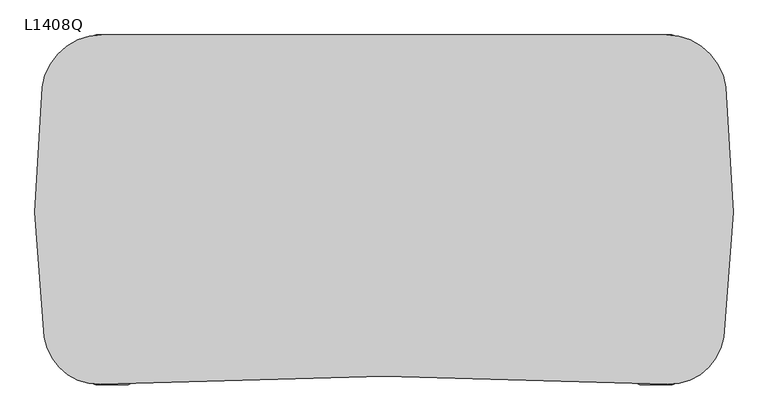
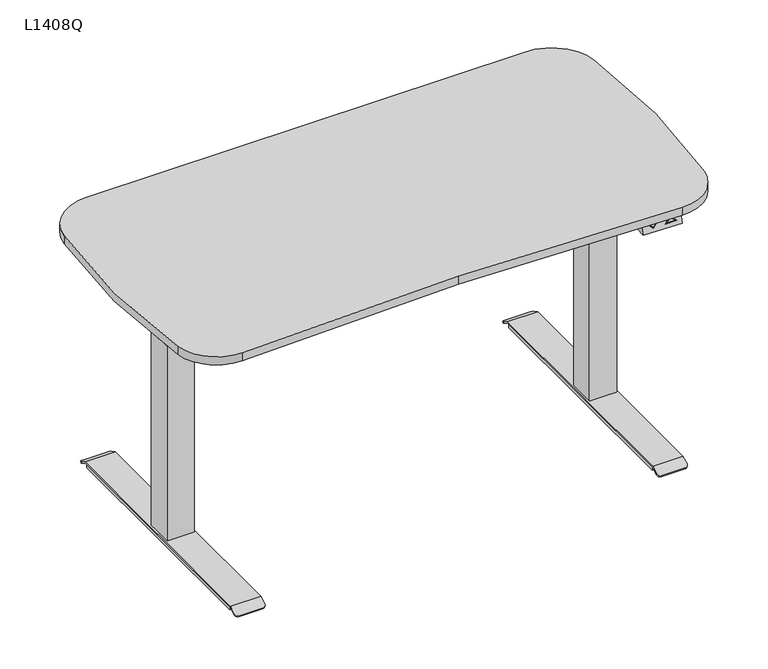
"""IFC4 building model written with IfcOpenShell, lengths in millimetres: furniture geometry, PINTA EQC : L1408Q."""

from ifc_helpers import new_model, si_unit, point, frame, frame_2d, origin, origin_with_axes, place, context, project, spatial, polyline, circle_curve, trimmed, segment, composite_curve, outline, extrude, faceted_brep, source, transform, mapped, element, save
from ifc_brep_helpers import plane_surface, cylinder_surface, advanced_brep


def l1408q_6657de7c(model_context):
    return source(origin(), model_context, "Body", "SolidModel", [
        faceted_brep([(474.6356936, -686.0792279, 668.0), (475.4886346, -656.0913555, 668.0), (575.4482093, -658.9344925, 668.0), (574.5952682, -688.9223649, 668.0), (474.9200072, -676.0832705, 698.0), (574.8795819, -678.9264074, 698.0), (575.732523, -648.938535, 698.0), (475.7729483, -646.0953981, 698.0), (487.3396362, -679.0867023, 690.0526681), (517.3275087, -679.9396434, 690.0526681), (502.1987106, -684.2546718, 675.8224186), (562.1879616, -685.4857012, 677.2475529), (532.2000892, -684.6327602, 677.2475529), (547.3288872, -680.3177318, 691.4778023), (502.2241404, -683.3606062, 678.5057002), (512.4830519, -680.4345645, 688.1553015), (492.1481299, -679.856181, 688.1553015), (557.379468, -684.7162226, 679.1449195), (547.3034574, -681.2117974, 688.7945208), (537.044546, -684.1378391, 679.1449195), (517.354481, -678.9913436, 689.7364403), (487.3666086, -678.1384025, 689.7364403), (502.225683, -683.306372, 675.5061908), (512.5100242, -679.4862647, 687.8390737), (502.2511128, -682.4123064, 678.1894724), (492.1751022, -678.9078812, 687.8390737), (532.2270616, -683.6844604, 676.9313251), (562.214934, -684.5374015, 676.9313251), (547.3558596, -679.369432, 691.1615746), (547.3304298, -680.2634976, 688.478293), (557.4064403, -683.7679228, 678.8286917), (537.0715184, -683.1895393, 678.8286917)], [[[0, 1, 2, 3]], [[4, 5, 6, 7]], [[1, 0, 4, 7]], [[3, 2, 6, 5]], [[0, 3, 5, 4], [8, 9, 10], [11, 12, 13]], [[14, 15, 16]], [[17, 18, 19]], [[2, 1, 7, 6]], [[20, 21, 22], [23, 24, 25]], [[26, 27, 28], [29, 30, 31]], [[21, 20, 9, 8]], [[22, 21, 8, 10]], [[20, 22, 10, 9]], [[27, 26, 12, 11]], [[28, 27, 11, 13]], [[26, 28, 13, 12]], [[24, 23, 15, 14]], [[25, 24, 14, 16]], [[23, 25, 16, 15]], [[30, 29, 18, 17]], [[31, 30, 17, 19]], [[29, 31, 19, 18]]]),
        extrude(outline(polyline([(-579.2088623, -269.773219), (580.0, -269.7733081), (580.0, -289.7733081), (-579.2088623, -289.773219), (-579.2088623, -269.773219)])), frame((0.0, 0.0, 658.0), z_axis=(0.0, 0.0, 1.0), x_axis=(1.0, 0.0, 0.0)), (0.0, 0.0, 1.0), 40.0),
        extrude(outline(polyline([(-579.2088623, -409.773219), (580.0, -409.7733081), (580.0, -429.7733081), (-579.2088623, -429.773219), (-579.2088623, -409.773219)])), frame((0.0, 0.0, 658.0), z_axis=(0.0, 0.0, 1.0), x_axis=(1.0, 0.0, 0.0)), (0.0, 0.0, 1.0), 40.0),
        extrude(outline(composite_curve([segment(polyline([(-565.2986167, 0.0), (565.2986167, 0.0)]), True, "CONTINUOUS"), segment(trimmed(circle_curve(frame_2d((565.2986167, -120.0)), 120.0), [point((565.2986167, 0.0))], [point((684.3640357, -105.0525582))], False, "CARTESIAN"), True, "CONTINUOUS"), segment(trimmed(circle_curve(frame_2d((-1174.6597953, -338.4339275)), 1873.6158805), [point((684.3640357, -105.0525582))], [point((679.8816852, -605.1029451))], False, "CARTESIAN"), True, "CONTINUOUS"), segment(trimmed(circle_curve(frame_2d((571.0374225, -589.1992825)), 110.0), [point((679.8816852, -605.1029451))], [point((567.9099719, -699.1548147))], False, "CARTESIAN"), True, "CONTINUOUS"), segment(polyline([(567.9099719, -699.1548147), (0.0001526, -683.0018311), (-567.9096667, -699.1548147)]), True, "CONTINUOUS"), segment(trimmed(circle_curve(frame_2d((-571.0371173, -589.1992825)), 110.0), [point((-567.9096667, -699.1548147))], [point((-679.919478, -604.8399838))], False, "CARTESIAN"), True, "CONTINUOUS"), segment(trimmed(circle_curve(frame_2d((1174.6597953, -338.4339275)), 1873.6158805), [point((-679.919478, -604.8399838))], [point((-684.3640357, -105.0525582))], False, "CARTESIAN"), True, "CONTINUOUS"), segment(trimmed(circle_curve(frame_2d((-565.2986167, -120.0)), 120.0), [point((-684.3640357, -105.0525582))], [point((-565.2986167, 0.0))], False, "CARTESIAN"), True, "CONTINUOUS")], self_intersect=False)), frame((0.0, 0.0, 698.0), z_axis=(0.0, 0.0, 1.0), x_axis=(1.0, 0.0, 0.0)), (0.0, 0.0, 1.0), 22.0),
        advanced_brep(
        [(506.9772339, -670.0, 6.0), (506.9772339, -670.0, 16.0), (506.9772339, -30.0, 16.0), (506.9772339, -30.0, 6.0), (583.0227661, -30.0, 16.0), (583.0227661, -30.0, 6.0), (583.0227661, -670.0, 16.0), (583.0227661, -670.0, 6.0), (506.0, -25.0, 20.0), (506.0, -6.9800481, 9.908827), (506.0, -8.9344616, 6.4188029), (506.0, -26.0437422, 16.0), (506.0, -673.9562578, 16.0), (506.0, -691.0655384, 6.4188029), (506.0, -693.0199519, 9.908827), (506.0, -675.0, 20.0), (584.0, -26.0437422, 16.0), (584.0, -8.9344616, 6.4188029), (584.0, -6.9800481, 9.908827), (584.0, -25.0, 20.0), (584.0, -675.0, 20.0), (584.0, -693.0199519, 9.908827), (584.0, -691.0655384, 6.4188029), (584.0, -673.9562578, 16.0), (514.0, -700.0, 6.0), (576.0, -700.0, 6.0), (514.0, -698.0455865, 2.5099759), (576.0, -698.0455865, 2.5099759), (514.0, -1.9544135, 2.5099759), (576.0, -1.9544135, 2.5099759), (514.0, 0.0, 6.0), (576.0, 0.0, 6.0)],
        [
            (0, 1),
            (1, 2),
            (2, 3),
            (3, 0),
            (2, 4),
            (4, 5),
            (5, 3),
            (4, 6),
            (6, 7),
            (7, 5),
            (6, 1),
            (0, 7),
            (8, 9),
            (9, 10),
            (10, 11),
            (11, 12),
            (12, 13),
            (13, 14),
            (14, 15),
            (15, 8),
            (16, 17),
            (17, 18),
            (18, 19),
            (19, 20),
            (20, 21),
            (21, 22),
            (22, 23),
            (23, 16),
            (15, 20),
            (19, 8),
            (11, 16),
            (23, 12),
            (14, 24, circle_curve(frame((514.0, -693.0199519, 9.908827), z_axis=(0.0, -0.4886033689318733, 0.8725060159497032), x_axis=(0.0, 0.8725060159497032, 0.4886033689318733)), 8.0)),
            (24, 25),
            (25, 21, circle_curve(frame((576.0, -693.0199519, 9.908827), z_axis=(0.0, -0.4886033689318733, 0.8725060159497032), x_axis=(0.0, 0.8725060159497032, 0.4886033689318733)), 8.0)),
            (24, 26),
            (26, 27),
            (27, 25),
            (22, 27, circle_curve(frame((576.0, -691.0655384, 6.4188029), z_axis=(0.0, 0.4886033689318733, -0.8725060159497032), x_axis=(0.0, 0.8725060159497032, 0.4886033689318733)), 8.0)),
            (26, 13, circle_curve(frame((514.0, -691.0655384, 6.4188029), z_axis=(0.0, 0.4886033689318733, -0.8725060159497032), x_axis=(0.0, 0.8725060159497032, 0.4886033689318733)), 8.0)),
            (10, 28, circle_curve(frame((514.0, -8.9344616, 6.4188029), z_axis=(0.0, -0.4886033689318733, -0.8725060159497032), x_axis=(0.0, -0.8725060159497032, 0.4886033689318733)), 8.0)),
            (28, 29),
            (29, 17, circle_curve(frame((576.0, -8.9344616, 6.4188029), z_axis=(0.0, -0.4886033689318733, -0.8725060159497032), x_axis=(0.0, -0.8725060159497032, 0.4886033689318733)), 8.0)),
            (28, 30),
            (30, 31),
            (31, 29),
            (18, 31, circle_curve(frame((576.0, -6.9800481, 9.908827), z_axis=(0.0, 0.4886033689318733, 0.8725060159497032), x_axis=(0.0, -0.8725060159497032, 0.4886033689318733)), 8.0)),
            (30, 9, circle_curve(frame((514.0, -6.9800481, 9.908827), z_axis=(0.0, 0.4886033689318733, 0.8725060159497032), x_axis=(0.0, -0.8725060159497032, 0.4886033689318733)), 8.0)),
        ],
        [
            plane_surface(frame((506.9772339, -670.0, 16.0), z_axis=(-1.0, 0.0, 0.0), x_axis=(0.0, 0.0, -1.0))),
            plane_surface(frame((506.9772339, -30.0, 16.0), z_axis=(0.0, 1.0, 0.0), x_axis=(0.0, 0.0, -1.0))),
            plane_surface(frame((583.0227661, -30.0, 16.0), z_axis=(1.0, 0.0, 0.0), x_axis=(0.0, 0.0, -1.0))),
            plane_surface(frame((583.0227661, -670.0, 16.0), z_axis=(0.0, -1.0, 0.0), x_axis=(0.0, 0.0, -1.0))),
            plane_surface(frame((506.9772339, -673.4188232, 6.0), z_axis=(0.0, 0.0, -1.0), x_axis=(0.0, -1.0, 0.0))),
            plane_surface(frame((506.0, -350.0, 20.0), z_axis=(-1.0, 0.0, 0.0), x_axis=(0.0, -1.0, 0.0))),
            plane_surface(frame((584.0, -350.0, 20.0), z_axis=(1.0, 0.0, 0.0), x_axis=(0.0, 1.0, 0.0))),
            plane_surface(frame((506.0, -25.0, 20.0), z_axis=(0.0, 0.0, 1.0), x_axis=(1.0, 0.0, 0.0))),
            plane_surface(frame((506.0, -673.9562578, 16.0), z_axis=(0.0, 0.0, -1.0), x_axis=(1.0, 0.0, 0.0))),
            plane_surface(frame((506.0, -675.0, 20.0), z_axis=(0.0, -0.4886033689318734, 0.8725060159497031), x_axis=(1.0, 0.0, 0.0))),
            plane_surface(frame((506.0, -700.0, 6.0), z_axis=(0.0, -0.872506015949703, -0.4886033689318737), x_axis=(1.0, 0.0, 0.0))),
            plane_surface(frame((506.0, -698.0455865, 2.5099759), z_axis=(0.0, 0.4886033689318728, -0.8725060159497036), x_axis=(1.0, 0.0, 0.0))),
            plane_surface(frame((506.0, -26.0437422, 16.0), z_axis=(0.0, -0.4886033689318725, -0.8725060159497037), x_axis=(1.0, 0.0, 0.0))),
            plane_surface(frame((506.0, -1.9544135, 2.5099759), z_axis=(0.0, 0.8725060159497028, -0.48860336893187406), x_axis=(1.0, 0.0, 0.0))),
            plane_surface(frame((506.0, 0.0, 6.0), z_axis=(0.0, 0.48860336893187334, 0.8725060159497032), x_axis=(1.0, 0.0, 0.0))),
            cylinder_surface(frame((514.0, -693.0199519, 9.908827), z_axis=(0.0, -0.4886033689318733, 0.8725060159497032), x_axis=(0.0, 0.8725060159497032, 0.4886033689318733)), 8.0),
            cylinder_surface(frame((576.0, -693.0199519, 9.908827), z_axis=(0.0, -0.4886033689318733, 0.8725060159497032), x_axis=(0.0, 0.8725060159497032, 0.4886033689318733)), 8.0),
            cylinder_surface(frame((514.0, -6.9800481, 9.908827), z_axis=(0.0, 0.4886033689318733, 0.8725060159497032), x_axis=(0.0, -0.8725060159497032, 0.4886033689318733)), 8.0),
            cylinder_surface(frame((576.0, -6.9800481, 9.908827), z_axis=(0.0, 0.4886033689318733, 0.8725060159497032), x_axis=(0.0, -0.8725060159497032, 0.4886033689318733)), 8.0),
        ],
        [
            (0, [[1, 2, 3, 4]]),
            (1, [[-3, 5, 6, 7]]),
            (2, [[-6, 8, 9, 10]]),
            (3, [[-9, 11, -1, 12]]),
            (4, [[-4, -7, -10, -12]]),
            (5, [[13, 14, 15, 16, 17, 18, 19, 20]]),
            (6, [[21, 22, 23, 24, 25, 26, 27, 28]]),
            (7, [[29, -24, 30, -20]]),
            (8, [[31, -28, 32, -16], [-11, -8, -5, -2]]),
            (9, [[-19, 33, 34, 35, -25, -29]]),
            (10, [[36, 37, 38, -34]]),
            (11, [[-27, 39, -37, 40, -17, -32]]),
            (12, [[-15, 41, 42, 43, -21, -31]]),
            (13, [[44, 45, 46, -42]]),
            (14, [[-23, 47, -45, 48, -13, -30]]),
            (15, [[-40, -36, -33, -18]]),
            (16, [[-35, -38, -39, -26]]),
            (17, [[-48, -44, -41, -14]]),
            (18, [[-43, -46, -47, -22]]),
        ],
    ),
        faceted_brep([(379.4551307, -410.0, 698.0), (562.9996948, -410.0, 698.0), (562.9996948, -650.0, 698.0), (579.4551307, -650.0, 698.0), (583.0, -650.0, 698.0), (583.0, -50.0, 698.0), (579.4551307, -50.0, 698.0), (562.9996948, -50.0, 698.0), (562.9996948, -290.0, 698.0), (379.4551307, -290.0, 698.0), (379.4551307, -410.0, 635.2327881), (379.4551307, -290.0, 635.2327881), (579.4551307, -290.0, 635.2327881), (579.4551307, -253.8252348, 635.2327881), (583.0, -253.8252348, 635.2327881), (583.0, -446.1747652, 635.2327881), (579.4551307, -446.1747652, 635.2327881), (579.4551307, -410.0, 635.2327881), (562.9996948, -290.0, 694.9093018), (579.4551307, -290.0, 694.9093018), (579.4551307, -410.0, 694.9093018), (562.9996948, -410.0, 694.9093018), (579.4551307, -650.0, 694.9093018), (562.9996948, -650.0, 694.9093018), (579.4551307, -50.0, 694.9093018), (562.9996948, -50.0, 694.9093018), (579.4551307, -51.1249222, 694.9093018), (579.4551307, -648.8750778, 694.9093018), (579.4551307, -58.5505036, 674.5076845), (579.4551307, -641.4494964, 674.5076845), (583.0, -58.5505036, 674.5076845), (583.0, -641.4494964, 674.5076845)], [[[0, 1, 2, 3, 4, 5, 6, 7, 8, 9]], [[10, 11, 12, 13, 14, 15, 16, 17]], [[9, 11, 10, 0]], [[11, 9, 8, 18, 19, 12]], [[17, 20, 21, 1, 0, 10]], [[22, 3, 2, 23]], [[24, 25, 7, 6]], [[24, 26, 19, 18, 25]], [[23, 21, 20, 27, 22]], [[2, 1, 21, 23]], [[25, 18, 8, 7]], [[13, 12, 19, 26, 28]], [[29, 27, 20, 17, 16]], [[15, 14, 30, 5, 4, 31]], [[16, 15, 31, 29]], [[22, 27, 3]], [[6, 26, 24]], [[4, 3, 27, 29, 31]], [[28, 30, 14, 13]], [[30, 28, 26, 6, 5]]]),
        extrude(outline(composite_curve([segment(trimmed(circle_curve(frame_2d((545.0, -655.0)), 25.0), [point((570.0, -655.0))], [point((520.0, -655.0))], False, "CARTESIAN"), True, "CONTINUOUS"), segment(trimmed(circle_curve(frame_2d((545.0, -655.0)), 25.0), [point((520.0, -655.0))], [point((570.0, -655.0))], False, "CARTESIAN"), True, "CONTINUOUS")], self_intersect=False)), origin_with_axes(), (0.0, 0.0, 1.0), 6.0),
        extrude(outline(composite_curve([segment(trimmed(circle_curve(frame_2d((545.0, -45.0)), 25.0), [point((570.0, -45.0))], [point((520.0, -45.0))], False, "CARTESIAN"), True, "CONTINUOUS"), segment(trimmed(circle_curve(frame_2d((545.0, -45.0)), 25.0), [point((520.0, -45.0))], [point((570.0, -45.0))], False, "CARTESIAN"), True, "CONTINUOUS")], self_intersect=False)), origin_with_axes(), (0.0, 0.0, 1.0), 6.0),
        faceted_brep([(510.0, -315.0, 550.0), (510.0, -384.9621325, 550.0), (580.0, -384.9621325, 550.0), (580.0, -315.0, 550.0), (575.0, -320.0, 550.0), (575.0, -379.9621325, 550.0), (515.0, -379.9621325, 550.0), (515.0, -320.0, 550.0), (510.0, -315.0, 20.0), (580.0, -315.0, 20.0), (580.0, -384.9621325, 20.0), (510.0, -384.9621325, 20.0), (515.0, -320.0, 592.616394), (515.0, -379.9621325, 592.616394), (575.0, -379.9621325, 592.616394), (575.0, -320.0, 592.616394), (570.0, -325.0, 592.616394), (570.0, -374.9621325, 592.616394), (520.0, -374.9621325, 592.616394), (520.0, -325.0, 592.616394), (520.0, -325.0, 635.2327881), (520.0, -374.9621325, 635.2327881), (570.0, -374.9621325, 635.2327881), (570.0, -325.0, 635.2327881)], [[[0, 1, 2, 3], [4, 5, 6, 7]], [[8, 9, 10, 11]], [[3, 9, 8, 0]], [[2, 10, 9, 3]], [[1, 11, 10, 2]], [[0, 8, 11, 1]], [[12, 13, 14, 15], [16, 17, 18, 19]], [[15, 4, 7, 12]], [[14, 5, 4, 15]], [[13, 6, 5, 14]], [[12, 7, 6, 13]], [[20, 21, 22, 23]], [[23, 16, 19, 20]], [[22, 17, 16, 23]], [[21, 18, 17, 22]], [[20, 19, 18, 21]]]),
        advanced_brep(
        [(-506.9772339, -670.0, 6.0), (-506.9772339, -30.0, 6.0), (-506.9772339, -30.0, 16.0), (-506.9772339, -670.0, 16.0), (-583.0227661, -30.0, 6.0), (-583.0227661, -30.0, 16.0), (-583.0227661, -670.0, 6.0), (-583.0227661, -670.0, 16.0), (-506.0, -25.0, 20.0), (-506.0, -675.0, 20.0), (-506.0, -693.0199519, 9.908827), (-506.0, -691.0655384, 6.4188029), (-506.0, -673.9562578, 16.0), (-506.0, -26.0437422, 16.0), (-506.0, -8.9344616, 6.4188029), (-506.0, -6.9800481, 9.908827), (-584.0, -26.0437422, 16.0), (-584.0, -673.9562578, 16.0), (-584.0, -691.0655384, 6.4188029), (-584.0, -693.0199519, 9.908827), (-584.0, -675.0, 20.0), (-584.0, -25.0, 20.0), (-584.0, -6.9800481, 9.908827), (-584.0, -8.9344616, 6.4188029), (-576.0, -700.0, 6.0), (-514.0, -700.0, 6.0), (-576.0, -698.0455865, 2.5099759), (-514.0, -698.0455865, 2.5099759), (-576.0, -1.9544135, 2.5099759), (-514.0, -1.9544135, 2.5099759), (-576.0, 0.0, 6.0), (-514.0, 0.0, 6.0)],
        [
            (0, 1),
            (1, 2),
            (2, 3),
            (3, 0),
            (1, 4),
            (4, 5),
            (5, 2),
            (4, 6),
            (6, 7),
            (7, 5),
            (6, 0),
            (3, 7),
            (8, 9),
            (9, 10),
            (10, 11),
            (11, 12),
            (12, 13),
            (13, 14),
            (14, 15),
            (15, 8),
            (16, 17),
            (17, 18),
            (18, 19),
            (19, 20),
            (20, 21),
            (21, 22),
            (22, 23),
            (23, 16),
            (8, 21),
            (20, 9),
            (12, 17),
            (16, 13),
            (19, 24, circle_curve(frame((-576.0, -693.0199519, 9.908827), z_axis=(0.0, -0.4886033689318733, 0.8725060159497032), x_axis=(0.0, 0.8725060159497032, 0.4886033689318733)), 8.0)),
            (24, 25),
            (25, 10, circle_curve(frame((-514.0, -693.0199519, 9.908827), z_axis=(0.0, -0.4886033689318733, 0.8725060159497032), x_axis=(0.0, 0.8725060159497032, 0.4886033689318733)), 8.0)),
            (24, 26),
            (26, 27),
            (27, 25),
            (11, 27, circle_curve(frame((-514.0, -691.0655384, 6.4188029), z_axis=(0.0, 0.4886033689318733, -0.8725060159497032), x_axis=(0.0, 0.8725060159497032, 0.4886033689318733)), 8.0)),
            (26, 18, circle_curve(frame((-576.0, -691.0655384, 6.4188029), z_axis=(0.0, 0.4886033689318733, -0.8725060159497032), x_axis=(0.0, 0.8725060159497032, 0.4886033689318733)), 8.0)),
            (23, 28, circle_curve(frame((-576.0, -8.9344616, 6.4188029), z_axis=(0.0, -0.4886033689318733, -0.8725060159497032), x_axis=(0.0, -0.8725060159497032, 0.4886033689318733)), 8.0)),
            (28, 29),
            (29, 14, circle_curve(frame((-514.0, -8.9344616, 6.4188029), z_axis=(0.0, -0.4886033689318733, -0.8725060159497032), x_axis=(0.0, -0.8725060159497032, 0.4886033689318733)), 8.0)),
            (28, 30),
            (30, 31),
            (31, 29),
            (15, 31, circle_curve(frame((-514.0, -6.9800481, 9.908827), z_axis=(0.0, 0.4886033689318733, 0.8725060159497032), x_axis=(0.0, -0.8725060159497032, 0.4886033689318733)), 8.0)),
            (30, 22, circle_curve(frame((-576.0, -6.9800481, 9.908827), z_axis=(0.0, 0.4886033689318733, 0.8725060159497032), x_axis=(0.0, -0.8725060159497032, 0.4886033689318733)), 8.0)),
        ],
        [
            plane_surface(frame((-506.9772339, -670.0, 16.0), z_axis=(1.0, 0.0, 0.0), x_axis=(0.0, 0.0, -1.0))),
            plane_surface(frame((-506.9772339, -30.0, 16.0), z_axis=(0.0, 1.0, 0.0), x_axis=(0.0, 0.0, -1.0))),
            plane_surface(frame((-583.0227661, -30.0, 16.0), z_axis=(-1.0, 0.0, 0.0), x_axis=(0.0, 0.0, -1.0))),
            plane_surface(frame((-583.0227661, -670.0, 16.0), z_axis=(0.0, -1.0, 0.0), x_axis=(0.0, 0.0, -1.0))),
            plane_surface(frame((-506.9772339, -673.4188232, 6.0), z_axis=(0.0, 0.0, -1.0), x_axis=(0.0, -1.0, 0.0))),
            plane_surface(frame((-506.0, -350.0, 20.0), z_axis=(1.0, 0.0, 0.0), x_axis=(0.0, -1.0, 0.0))),
            plane_surface(frame((-584.0, -350.0, 20.0), z_axis=(-1.0, 0.0, 0.0), x_axis=(0.0, 1.0, 0.0))),
            plane_surface(frame((-506.0, -25.0, 20.0), z_axis=(0.0, 0.0, 1.0), x_axis=(-1.0, 0.0, 0.0))),
            plane_surface(frame((-506.0, -673.9562578, 16.0), z_axis=(0.0, 0.0, -1.0), x_axis=(-1.0, 0.0, 0.0))),
            plane_surface(frame((-506.0, -675.0, 20.0), z_axis=(0.0, -0.4886033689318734, 0.8725060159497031), x_axis=(-1.0, 0.0, 0.0))),
            plane_surface(frame((-506.0, -700.0, 6.0), z_axis=(0.0, -0.872506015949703, -0.4886033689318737), x_axis=(-1.0, 0.0, 0.0))),
            plane_surface(frame((-506.0, -698.0455865, 2.5099759), z_axis=(0.0, 0.4886033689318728, -0.8725060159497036), x_axis=(-1.0, 0.0, 0.0))),
            plane_surface(frame((-506.0, -26.0437422, 16.0), z_axis=(0.0, -0.4886033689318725, -0.8725060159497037), x_axis=(-1.0, 0.0, 0.0))),
            plane_surface(frame((-506.0, -1.9544135, 2.5099759), z_axis=(0.0, 0.8725060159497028, -0.48860336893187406), x_axis=(-1.0, 0.0, 0.0))),
            plane_surface(frame((-506.0, 0.0, 6.0), z_axis=(0.0, 0.48860336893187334, 0.8725060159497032), x_axis=(-1.0, 0.0, 0.0))),
            cylinder_surface(frame((-514.0, -693.0199519, 9.908827), z_axis=(0.0, -0.4886033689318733, 0.8725060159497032), x_axis=(0.0, 0.8725060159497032, 0.4886033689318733)), 8.0),
            cylinder_surface(frame((-576.0, -693.0199519, 9.908827), z_axis=(0.0, -0.4886033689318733, 0.8725060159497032), x_axis=(0.0, 0.8725060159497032, 0.4886033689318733)), 8.0),
            cylinder_surface(frame((-514.0, -6.9800481, 9.908827), z_axis=(0.0, 0.4886033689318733, 0.8725060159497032), x_axis=(0.0, -0.8725060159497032, 0.4886033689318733)), 8.0),
            cylinder_surface(frame((-576.0, -6.9800481, 9.908827), z_axis=(0.0, 0.4886033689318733, 0.8725060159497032), x_axis=(0.0, -0.8725060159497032, 0.4886033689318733)), 8.0),
        ],
        [
            (0, [[1, 2, 3, 4]]),
            (1, [[5, 6, 7, -2]]),
            (2, [[8, 9, 10, -6]]),
            (3, [[11, -4, 12, -9]]),
            (4, [[-11, -8, -5, -1]]),
            (5, [[13, 14, 15, 16, 17, 18, 19, 20]]),
            (6, [[21, 22, 23, 24, 25, 26, 27, 28]]),
            (7, [[-13, 29, -25, 30]]),
            (8, [[-17, 31, -21, 32], [-3, -7, -10, -12]]),
            (9, [[-30, -24, 33, 34, 35, -14]]),
            (10, [[-34, 36, 37, 38]]),
            (11, [[-31, -16, 39, -37, 40, -22]]),
            (12, [[-32, -28, 41, 42, 43, -18]]),
            (13, [[-42, 44, 45, 46]]),
            (14, [[-29, -20, 47, -45, 48, -26]]),
            (15, [[-15, -35, -38, -39]]),
            (16, [[-23, -40, -36, -33]]),
            (17, [[-19, -43, -46, -47]]),
            (18, [[-27, -48, -44, -41]]),
        ],
    ),
        faceted_brep([(-379.4551307, -410.0, 698.0), (-379.4551307, -290.0, 698.0), (-562.9996948, -290.0, 698.0), (-562.9996948, -50.0, 698.0), (-579.4551307, -50.0, 698.0), (-583.0, -50.0, 698.0), (-583.0, -650.0, 698.0), (-579.4551307, -650.0, 698.0), (-562.9996948, -650.0, 698.0), (-562.9996948, -410.0, 698.0), (-379.4551307, -410.0, 635.2327881), (-579.4551307, -410.0, 635.2327881), (-579.4551307, -446.1747652, 635.2327881), (-583.0, -446.1747652, 635.2327881), (-583.0, -253.8252348, 635.2327881), (-579.4551307, -253.8252348, 635.2327881), (-579.4551307, -290.0, 635.2327881), (-379.4551307, -290.0, 635.2327881), (-579.4551307, -290.0, 694.9093018), (-562.9996948, -290.0, 694.9093018), (-562.9996948, -410.0, 694.9093018), (-579.4551307, -410.0, 694.9093018), (-579.4551307, -650.0, 694.9093018), (-562.9996948, -650.0, 694.9093018), (-579.4551307, -50.0, 694.9093018), (-562.9996948, -50.0, 694.9093018), (-579.4551307, -648.8750778, 694.9093018), (-579.4551307, -51.1249222, 694.9093018), (-579.4551307, -641.4494964, 674.5076845), (-579.4551307, -58.5505036, 674.5076845), (-583.0, -641.4494964, 674.5076845), (-583.0, -58.5505036, 674.5076845)], [[[0, 1, 2, 3, 4, 5, 6, 7, 8, 9]], [[10, 11, 12, 13, 14, 15, 16, 17]], [[1, 0, 10, 17]], [[17, 16, 18, 19, 2, 1]], [[11, 10, 0, 9, 20, 21]], [[22, 23, 8, 7]], [[24, 4, 3, 25]], [[23, 22, 26, 21, 20]], [[24, 25, 19, 18, 27]], [[8, 23, 20, 9]], [[25, 3, 2, 19]], [[28, 12, 11, 21, 26]], [[15, 29, 27, 18, 16]], [[13, 30, 6, 5, 31, 14]], [[12, 28, 30, 13]], [[22, 7, 26]], [[4, 24, 27]], [[6, 30, 28, 26, 7]], [[29, 15, 14, 31]], [[31, 5, 4, 27, 29]]]),
        extrude(outline(composite_curve([segment(trimmed(circle_curve(frame_2d((-545.0, -655.0)), 25.0), [point((-570.0, -655.0))], [point((-520.0, -655.0))], False, "CARTESIAN"), True, "CONTINUOUS"), segment(trimmed(circle_curve(frame_2d((-545.0, -655.0)), 25.0), [point((-520.0, -655.0))], [point((-570.0, -655.0))], False, "CARTESIAN"), True, "CONTINUOUS")], self_intersect=False)), origin_with_axes(), (0.0, 0.0, 1.0), 6.0),
        extrude(outline(composite_curve([segment(trimmed(circle_curve(frame_2d((-545.0, -45.0)), 25.0), [point((-570.0, -45.0))], [point((-520.0, -45.0))], False, "CARTESIAN"), True, "CONTINUOUS"), segment(trimmed(circle_curve(frame_2d((-545.0, -45.0)), 25.0), [point((-520.0, -45.0))], [point((-570.0, -45.0))], False, "CARTESIAN"), True, "CONTINUOUS")], self_intersect=False)), origin_with_axes(), (0.0, 0.0, 1.0), 6.0),
        faceted_brep([(-510.0, -315.0, 550.0), (-580.0, -315.0, 550.0), (-580.0, -384.9621325, 550.0), (-510.0, -384.9621325, 550.0), (-575.0, -320.0, 550.0), (-515.0, -320.0, 550.0), (-515.0, -379.9621325, 550.0), (-575.0, -379.9621325, 550.0), (-510.0, -315.0, 20.0), (-510.0, -384.9621325, 20.0), (-580.0, -384.9621325, 20.0), (-580.0, -315.0, 20.0), (-515.0, -320.0, 592.616394), (-575.0, -320.0, 592.616394), (-575.0, -379.9621325, 592.616394), (-515.0, -379.9621325, 592.616394), (-570.0, -325.0, 592.616394), (-520.0, -325.0, 592.616394), (-520.0, -374.9621325, 592.616394), (-570.0, -374.9621325, 592.616394), (-520.0, -325.0, 635.2327881), (-570.0, -325.0, 635.2327881), (-570.0, -374.9621325, 635.2327881), (-520.0, -374.9621325, 635.2327881)], [[[0, 1, 2, 3], [4, 5, 6, 7]], [[8, 9, 10, 11]], [[1, 0, 8, 11]], [[2, 1, 11, 10]], [[3, 2, 10, 9]], [[0, 3, 9, 8]], [[12, 13, 14, 15], [16, 17, 18, 19]], [[13, 12, 5, 4]], [[14, 13, 4, 7]], [[15, 14, 7, 6]], [[12, 15, 6, 5]], [[20, 21, 22, 23]], [[21, 20, 17, 16]], [[22, 21, 16, 19]], [[23, 22, 19, 18]], [[20, 23, 18, 17]]]),
    ])


if __name__ == "__main__":
    model = new_model("IFC4")
    model_context = context("Model", 3, world=origin())
    ifc_project = project(units=[si_unit("LENGTHUNIT", "METRE", prefix="MILLI")], contexts=[model_context])
    site = spatial("IfcSite", under=ifc_project)
    building = spatial("IfcBuilding", under=site)
    placement = place(None, origin())
    l1408q_shape = l1408q_6657de7c(model_context)
    element("IfcFurniture", 1, ObjectType="PINTA EQC : L1408Q", at=placement, inside=building, context=model_context, shape_type="MappedRepresentation", body=[
        mapped(l1408q_shape, transform((0.0, 0.0, 0.0), x_axis=(1.0, 0.0, 0.0), y_axis=(0.0, 1.0, 0.0), z_axis=(0.0, 0.0, 1.0))),
    ])
    save(model, "model.ifc")
